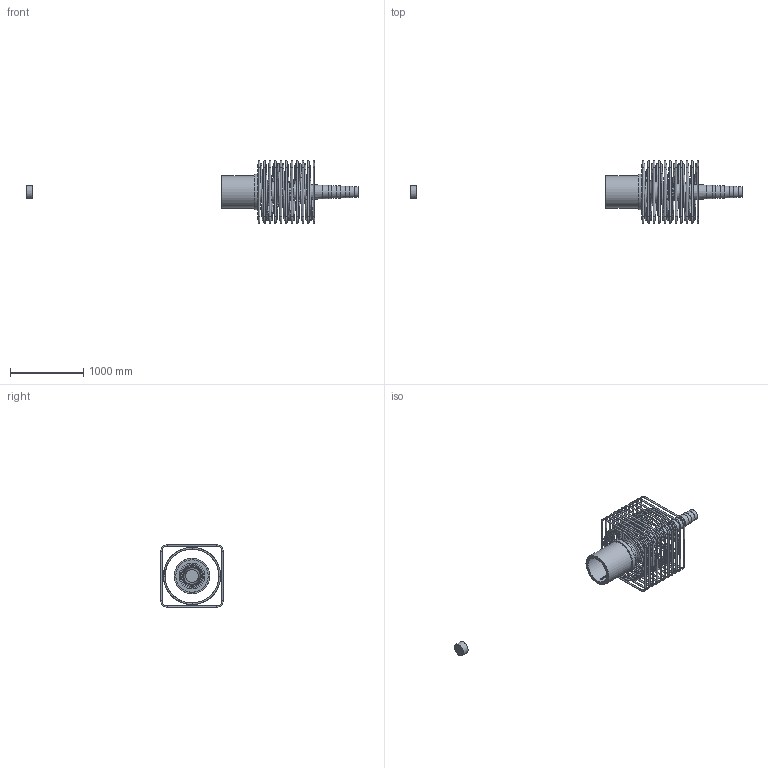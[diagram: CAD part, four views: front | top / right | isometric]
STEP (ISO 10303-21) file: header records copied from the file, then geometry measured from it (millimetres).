
FILE_DESCRIPTION(/* description */ (''),/* implementation_level */ '2;1');
FILE_NAME(/* name */ 'BBR VT CONA CMI BT 5506_Coupler H Assembly_CS-34,28.stp',/* time_stamp */ '2025-05-21T09:18:17+02:00',/* author */ ('tk'),/* organization */ (''),/* preprocessor_version */ 'ST-DEVELOPER v20',/* originating_system */ 'Autodesk Inventor 2024',/* authorisation */ '');
FILE_SCHEMA (('AUTOMOTIVE_DESIGN { 1 0 10303 214 3 1 1 }'));
Products named in the file (1): BBR VT CONA CMI BT 5506_Coupler H Assembly_CS-34,28
Bounding box: 4547.36 x 860 x 860 mm (x, y, z)
Volume: 304622785.8 mm3; surface area: 8443885.9 mm2
Topology: 13 solids, 13 shells, 902 faces, 2438 edges, 1606 vertices
Faces by surface type: bspline 377, plane 303, cylinder 129, torus 79, cone 12, sphere 2
Full cylindrical faces by diameter (mm): 20 x44, 35 x1, 57 x1, 149 x1, 159 x1, 169 x1, 175 x1, 179 x1, 282 x1, 377 x1, 390 x1, 443 x1, 485 x1
Entity records: 46168 total; most frequent: CARTESIAN_POINT 25123, ORIENTED_EDGE 4872, DIRECTION 3395, EDGE_CURVE 2436, VERTEX_POINT 1606, AXIS2_PLACEMENT_3D 1205, LINE 985, VECTOR 985
